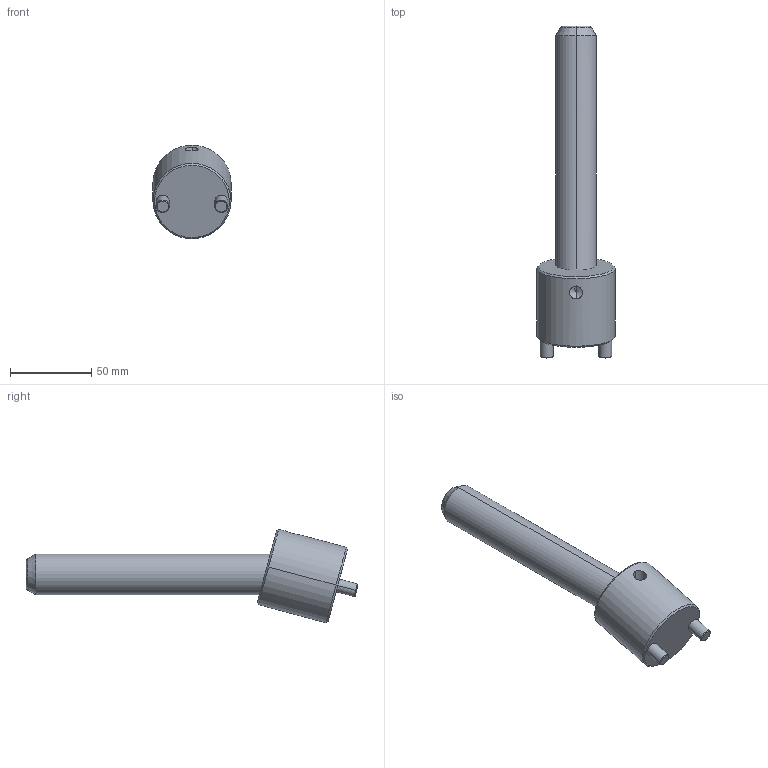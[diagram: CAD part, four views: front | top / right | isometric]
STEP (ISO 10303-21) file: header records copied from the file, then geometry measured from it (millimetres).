
FILE_DESCRIPTION(('CATIA V5 STEP Exchange'),'2;1');
FILE_NAME('C:\Users\Raffaele\Desktop\3D BOLEX\3D FILES CF BOLEX\19-INCLINED ASSEMBLY REF_CI\CI1525150.stp','2019-06-21T14:20:05+00:00',('none'),('none'),'CATIA Version 5 Release 20 GA (IN-10)','CATIA V5 STEP AP203','none');
FILE_SCHEMA(('CONFIG_CONTROL_DESIGN'));
Length unit declared in the file: millimetre
Products named in the file (1): CI1525150
Assembly tree (2 placements, depth 2):
  CI1525150
    #58
    #605
Bounding box: 48 x 204.26 x 57.49 mm (x, y, z)
Volume: 152751.3 mm3; surface area: 29348.2 mm2
Topology: 2 solids, 2 shells, 39 faces, 82 edges, 47 vertices
Faces by surface type: cone 14, cylinder 14, plane 7, torus 4
Entity records: 1527 total; most frequent: CARTESIAN_POINT 666, ORIENTED_EDGE 160, DIRECTION 146, EDGE_CURVE 80, AXIS2_PLACEMENT_3D 73, VERTEX_POINT 47, EDGE_LOOP 43, ADVANCED_FACE 39
